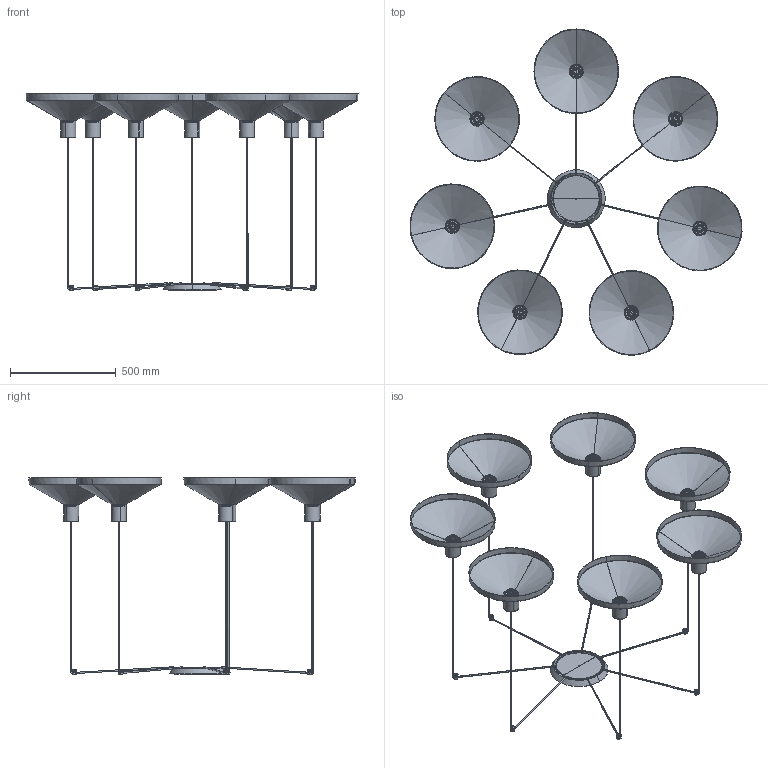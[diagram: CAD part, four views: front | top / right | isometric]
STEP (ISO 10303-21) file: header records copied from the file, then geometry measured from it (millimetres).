
FILE_DESCRIPTION(/* description */ (''),/* implementation_level */ '2;1');
FILE_NAME(/* name */ 'C:\Users\Franco Sartori E\Documents\FARO\DUPLICADO\Modelos\01_Digitalizados\2021\KOMBO\03_Publicación\68597-7L.stp',/* time_stamp */ '2021-02-25T08:39:12+01:00',/* author */ ('Franco Sartori E'),/* organization */ (''),/* preprocessor_version */ 'ST-DEVELOPER v18.1',/* originating_system */ 'AutoCAD Mechanical',/* authorisation */ '');
FILE_SCHEMA (('AUTOMOTIVE_DESIGN { 1 0 10303 214 3 1 1 }'));
Length unit declared in the file: millimetre
Products named in the file (3): Product; CANOPY_7 - 68603-392301-_3D_; KOMBO400FMA - LH-392270-_3D_
Assembly tree (8 placements, depth 2):
  Product
    CANOPY_7 - 68603-392301-_3D_
    KOMBO400FMA - LH-392270-_3D_  x7
Bounding box: 1567.65 x 1540.11 x 925.51 mm (x, y, z)
Volume: 3015248 mm3; surface area: 6062367.5 mm2
Topology: 86 solids, 100 shells, 1794 faces, 4171 edges, 2466 vertices
Faces by surface type: cylinder 625, plane 623, torus 298, cone 248
Entity records: 47892 total; most frequent: CARTESIAN_POINT 21714, ORIENTED_EDGE 5391, DIRECTION 5255, EDGE_CURVE 2741, AXIS2_PLACEMENT_3D 2088, VERTEX_POINT 1638, EDGE_LOOP 1272, FACE_OUTER_BOUND 1194
